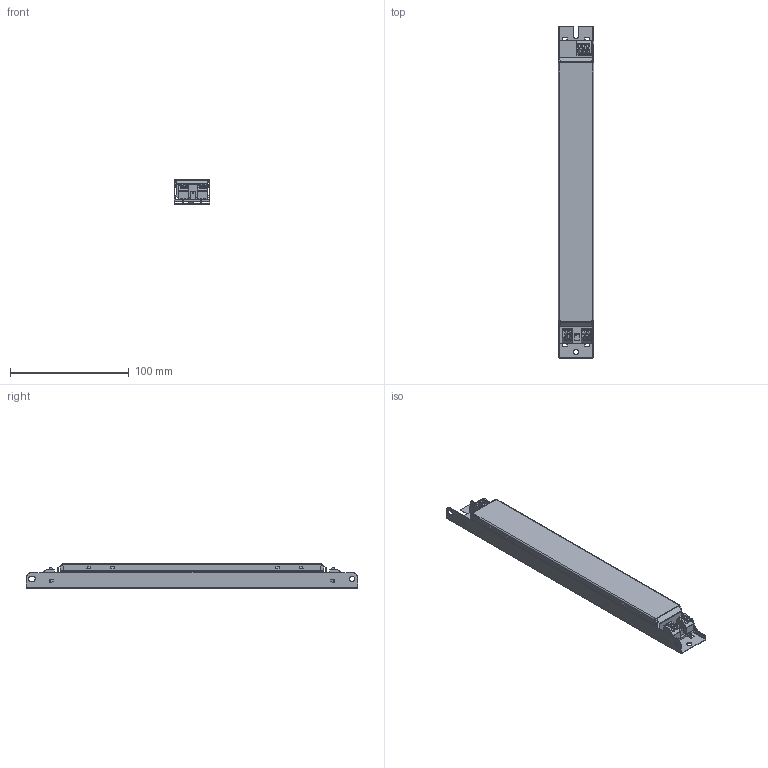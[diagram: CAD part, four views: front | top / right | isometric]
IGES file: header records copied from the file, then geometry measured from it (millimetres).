
Start section: SolidWorks IGES file using analytic representation for surfaces
Global section: file name: C:\Users\vuorinen_kari\Desktop\prj\LL1x10-42-E-SN\LL1x10-42-E-SN.IGS; native system: SolidWorks 2014; preprocessor: SolidWorks 2014; author: vuorinen_kari; date: 150422.133554; units: millimetre
Bounding box: 30.08 x 280 x 20.8 mm (x, y, z)
Surface area: 67942.4 mm2 (no closed solid volume)
Topology: 0 solids, 0 shells, 416 faces, 3898 edges, 3898 vertices
Faces by surface type: bspline 284, revolution 132
